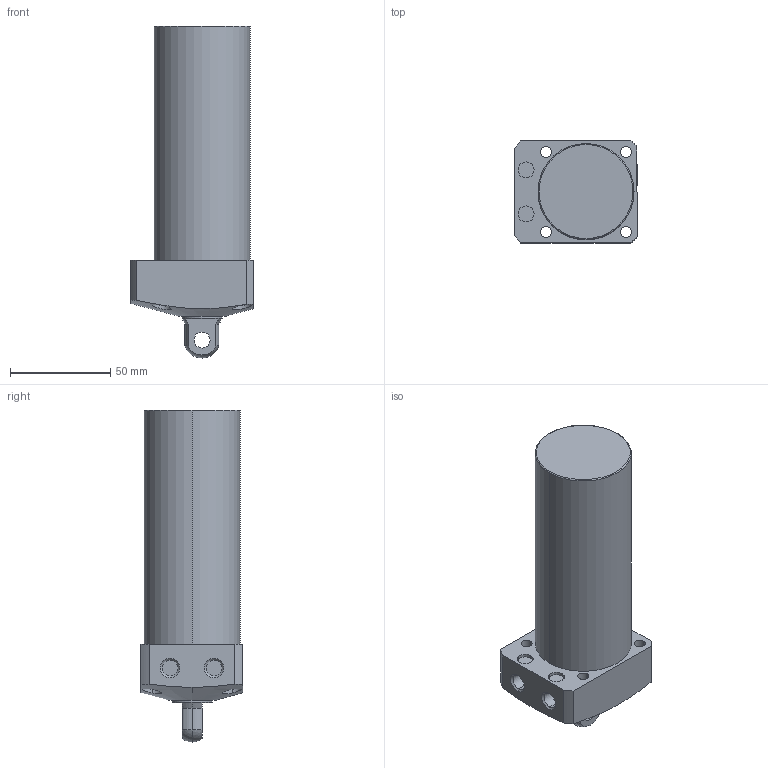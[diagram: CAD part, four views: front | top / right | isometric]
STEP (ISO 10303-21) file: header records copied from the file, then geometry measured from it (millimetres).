
FILE_DESCRIPTION (( 'STEP AP203' ), '1' );
FILE_NAME ('CLL048-CP-090.STEP', '2017-05-17T10:34:48', ( '' ), ( '' ), 'SwSTEP 2.0', 'SolidWorks 2015', '' );
FILE_SCHEMA (( 'CONFIG_CONTROL_DESIGN' ));
Length unit declared in the file: millimetre
Products named in the file (1): CLL048-CP-090
Bounding box: 61 x 51 x 166 mm (x, y, z)
Volume: 287056.1 mm3; surface area: 32462.6 mm2
Topology: 1 solids, 1 shells, 68 faces, 159 edges, 103 vertices
Faces by surface type: cylinder 35, plane 21, cone 8, sphere 2, torus 2
Entity records: 2390 total; most frequent: CARTESIAN_POINT 693, DIRECTION 357, ORIENTED_EDGE 318, EDGE_CURVE 159, AXIS2_PLACEMENT_3D 149, VERTEX_POINT 103, EDGE_LOOP 88, CIRCLE 80
